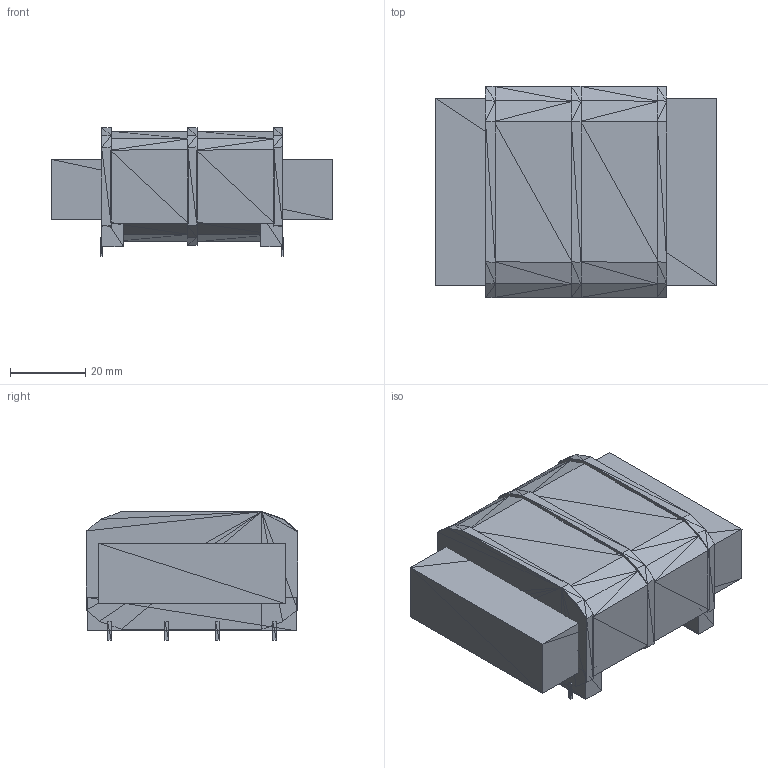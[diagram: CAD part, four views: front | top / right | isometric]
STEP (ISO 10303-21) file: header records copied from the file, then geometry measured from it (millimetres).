
FILE_DESCRIPTION(('HOOPS Exchange Step'),'2;1');
FILE_NAME('***.stp');
FILE_SCHEMA( ('AP242_MANAGED_MODEL_BASED_3D_ENGINEERING_MIM_LF {1 0 10303 442 1 1 4 }') );
Length unit declared in the file: inch
Products named in the file (17): XFRMPCB229C24_2; XFRMPCB229C24_3; XFRMPCB229C24_4; XFRMPCB229C24_5; XFRMPCB229C24_6; XFRMPCB229C24_7; XFRMPCB229C24_8; XFRMPCB229C24_9; XFRMPCB229C24_10; XFRMPCB229C24_11; XFRMPCB229C24_12; XFRMPCB229C24_13; XFRMPCB229C24_14; XFRMPCB229C24_15; XFRMPCB229C24_16; XFRMPCB229C24_17; XFRMPCB229C24
Assembly tree (16 placements, depth 2):
  XFRMPCB229C24
    XFRMPCB229C24_2
    XFRMPCB229C24_3
    XFRMPCB229C24_4
    XFRMPCB229C24_5
    XFRMPCB229C24_6
    XFRMPCB229C24_7
    XFRMPCB229C24_8
    XFRMPCB229C24_9
    XFRMPCB229C24_10
    XFRMPCB229C24_11
    XFRMPCB229C24_12
    XFRMPCB229C24_13
    XFRMPCB229C24_14
    XFRMPCB229C24_15
    XFRMPCB229C24_16
    XFRMPCB229C24_17
Bounding box: 74.98 x 56.15 x 34.27 mm (x, y, z)
Volume: 65857.4 mm3; surface area: 63358.9 mm2
Topology: 11 solids, 451 shells, 572 faces, 528 edges, 208 vertices
Faces by surface type: plane 572
Entity records: 10069 total; most frequent: DIRECTION 1740, ORIENTED_EDGE 1716, CARTESIAN_POINT 1342, AXIS2_PLACEMENT_3D 606, PLANE 572, EDGE_LOOP 572, FACE_BOUND 572, ADVANCED_FACE 572
